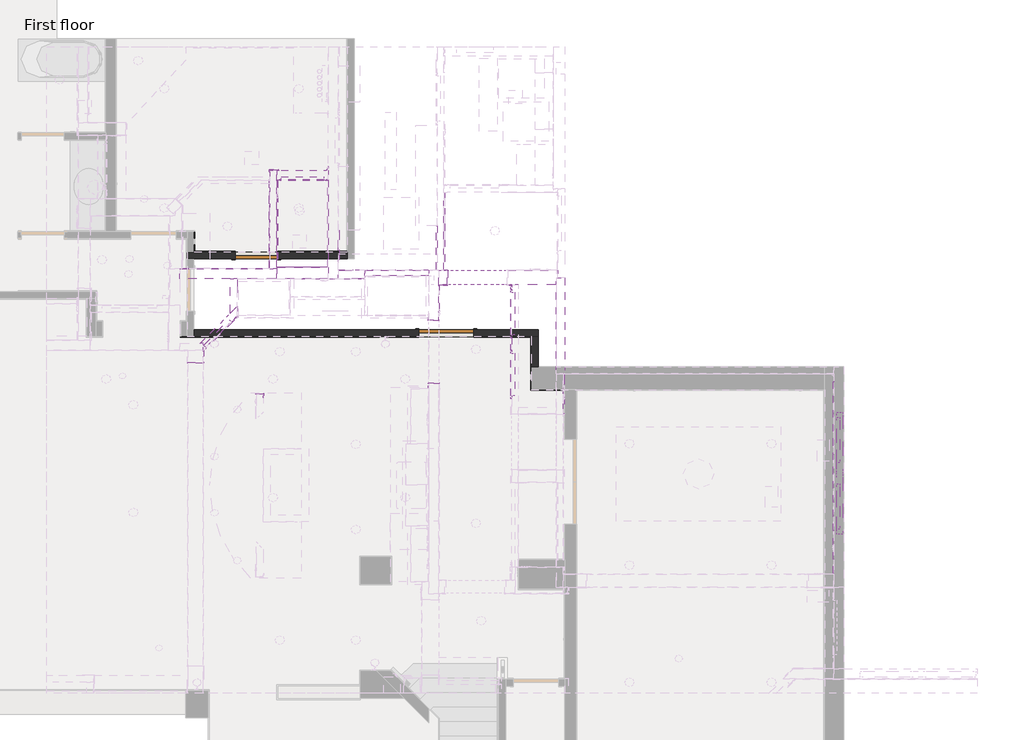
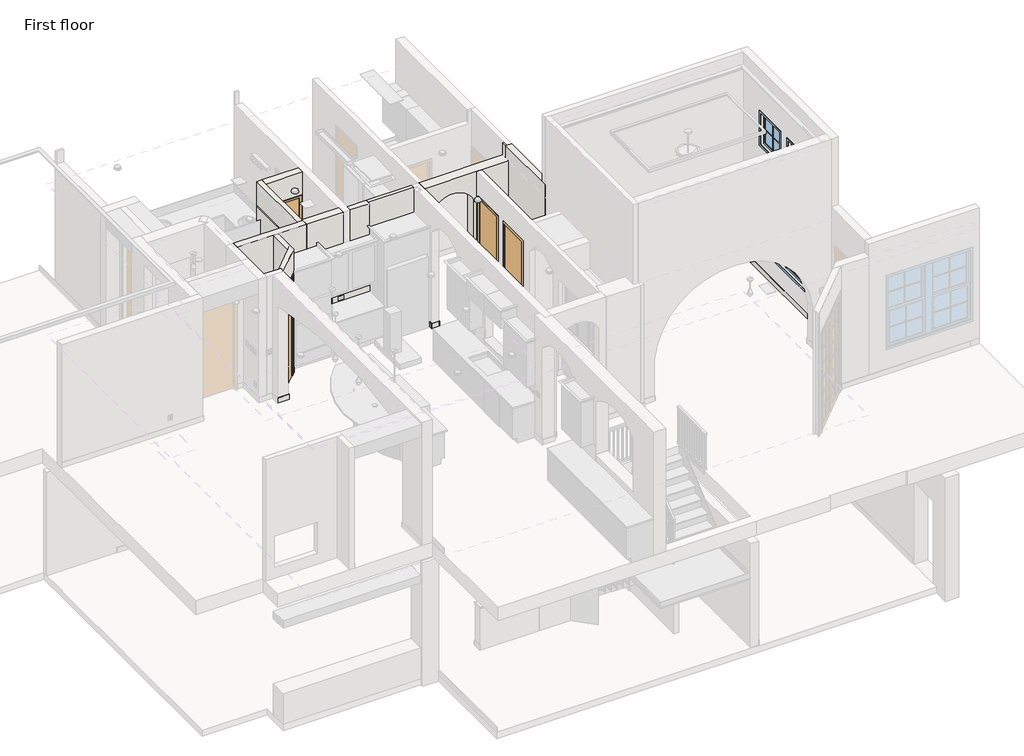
# One storey, part 7 of 14: 56 walls, 6 doors, 3 windows.
"""IFC4 building model written with IfcOpenShell, lengths in millimetres."""

from ifc_helpers import new_model, si_unit, frame, origin, origin_with_axes, place, context, project, spatial, polyline, circle_curve, outline, extrude, faceted_brep, transform, mapped, element, save
from ifc_brep_helpers import plane_surface, revolved_surface, advanced_brep
from components import door_7e4155b5, door_c2b4dc18, door_0b5118a4, door_85cdc329, door_72c844fb, window_a5bdc124, window_352ad0ef

model = new_model("IFC4")

# Units and contexts
model_context = context("Model", 3, world=origin())
ifc_project = project(units=[si_unit("LENGTHUNIT", "METRE", prefix="MILLI")], contexts=[model_context])

# Site, building, storey
site = spatial("IfcSite", under=ifc_project)
building = spatial("IfcBuilding", under=site)
storey = spatial("IfcBuildingStorey", under=building, Name="First floor", Elevation=0.0)

# Doors
placement = place(None, origin())
door_shape = door_7e4155b5(model_context)
element("IfcDoor", 1, ObjectType="Door_1 : 2'-0\" X 8'-0\"", at=placement, inside=storey, context=model_context, shape_type="MappedRepresentation", body=[
    mapped(door_shape, transform((385.1436821, 9152.7659872, 3251.2), x_axis=(-0.7071067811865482, -0.7071067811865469, 0.0), y_axis=(0.7071067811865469, -0.7071067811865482, 0.0), z_axis=(0.0, 0.0, 1.0))),
])
door_2_shape = door_c2b4dc18(model_context)
element("IfcDoor", 2, ObjectType="Door_1 : 2'-4\" X 8'-0\"", at=placement, inside=storey, context=model_context, shape_type="MappedRepresentation", body=[
    mapped(door_2_shape, transform((5378.45, 9461.3947939, 3251.2), x_axis=(0.0, -1.0, 0.0), y_axis=(1.0, 0.0, 0.0), z_axis=(0.0, 0.0, 1.0))),
])
element("IfcDoor", 3, ObjectType="Door_1 : 2'-4\" X 8'-0\"", at=placement, inside=storey, context=model_context, shape_type="MappedRepresentation", body=[
    mapped(door_2_shape, transform((5378.45, 8445.3947939, 3251.2), x_axis=(0.0, -1.0, 0.0), y_axis=(1.0, 0.0, 0.0), z_axis=(0.0, 0.0, 1.0))),
])
door_3_shape = door_0b5118a4(model_context)
element("IfcDoor", 4, ObjectType="Door_1 : 2'-4\" X 8'-0\"", at=placement, inside=storey, context=model_context, shape_type="MappedRepresentation", body=[
    mapped(door_3_shape, transform((1828.8, 11779.1447939, 3251.2), x_axis=(1.0, 0.0, 0.0), y_axis=(0.0, 1.0, 0.0), z_axis=(0.0, 0.0, 1.0))),
])
door_4_shape = door_85cdc329(model_context)
element("IfcDoor", 5, ObjectType="Door_1 : 2'-4\" X 8'-2\"", at=placement, inside=storey, context=model_context, shape_type="MappedRepresentation", body=[
    mapped(door_4_shape, transform((1054.1, 10433.05, 0.0), x_axis=(-1.0, 0.0, 0.0), y_axis=(0.0, -1.0, 0.0), z_axis=(0.0, 0.0, 1.0))),
])
door_5_shape = door_72c844fb(model_context)
element("IfcDoor", 6, ObjectType="Door_1 : 3'-0\" X 8'-0\"", at=placement, inside=storey, context=model_context, shape_type="MappedRepresentation", body=[
    mapped(door_5_shape, transform((4229.1, 9137.65, 0.0), x_axis=(1.0, 0.0, 0.0), y_axis=(0.0, 1.0, 0.0), z_axis=(0.0, 0.0, 1.0))),
])

# Walls
element("IfcWall", 7, ObjectType="Wall Border_T1", at=placement, inside=storey, context=model_context, shape_type="Brep", body=[
    faceted_brep([(-215.9, 9067.8, 0.0), (3721.1, 9067.8, 0.0), (3721.1, 9067.8, 127.0), (-215.9, 9067.8, 127.0), (-215.9, 9080.5, 0.0), (-215.9, 9080.5, 127.0), (-203.2, 9080.5, 127.0), (3721.1, 9080.5, 127.0), (3721.1, 9080.5, 0.0), (-203.2, 9080.5, 0.0)], [[[0, 1, 2, 3]], [[4, 5, 6, 7, 8, 9]], [[1, 0, 4, 9, 8]], [[2, 1, 8, 7]], [[3, 2, 7, 6, 5]], [[0, 3, 5, 4]]]),
])
element("IfcWall", 8, ObjectType="Wall Border_T1", at=placement, inside=storey, context=model_context, shape_type="SweptSolid", body=[
    extrude(outline(polyline([(5638.8, 9067.8), (4737.1, 9067.8), (4737.1, 9080.5), (5638.8, 9080.5), (5638.8, 9067.8)])), origin_with_axes(), (0.0, 0.0, 1.0), 127.0),
])
element("IfcWall", 9, ObjectType="Wall Border_T1", at=placement, inside=storey, context=model_context, shape_type="Brep", body=[
    faceted_brep([(5638.8, 9080.5, 0.0), (5638.8, 9067.8, 0.0), (5638.8, 8191.5, 0.0), (5638.8, 8191.5, 127.0), (5638.8, 9067.8, 127.0), (5638.8, 9080.5, 127.0), (5651.5, 9080.5, 0.0), (5651.5, 9080.5, 127.0), (5651.5, 8191.5, 127.0), (5651.5, 8191.5, 0.0)], [[[0, 1, 2, 3, 4, 5]], [[6, 7, 8, 9]], [[2, 1, 0, 6, 9]], [[3, 2, 9, 8]], [[5, 4, 3, 8, 7]], [[0, 5, 7, 6]]]),
])
element("IfcWall", 10, ObjectType="Wall Border_T1", at=placement, inside=storey, context=model_context, shape_type="Brep", body=[
    faceted_brep([(5638.8, 8178.8, 0.0), (6197.6, 8178.8, 0.0), (6197.6, 8178.8, 127.0), (5638.8, 8178.8, 127.0), (5638.8, 8191.5, 0.0), (5638.8, 8191.5, 127.0), (5651.5, 8191.5, 127.0), (6197.6, 8191.5, 127.0), (6197.6, 8191.5, 0.0), (5651.5, 8191.5, 0.0)], [[[0, 1, 2, 3]], [[4, 5, 6, 7, 8, 9]], [[1, 0, 4, 9, 8]], [[2, 1, 8, 7]], [[3, 2, 7, 6, 5]], [[0, 3, 5, 4]]]),
])
element("IfcWall", 11, ObjectType="Wall Border_T1", at=placement, inside=storey, context=model_context, shape_type="Brep", body=[
    faceted_brep([(1460.5, 10490.2, 0.0), (2578.1, 10490.2, 0.0), (2578.1, 10490.2, 127.0), (1460.5, 10490.2, 127.0), (1460.5, 10502.9, 0.0), (1460.5, 10502.9, 127.0), (2565.4, 10502.9, 127.0), (2578.1, 10502.9, 127.0), (2578.1, 10502.9, 0.0), (2565.4, 10502.9, 0.0)], [[[0, 1, 2, 3]], [[4, 5, 6, 7, 8, 9]], [[1, 0, 4, 9, 8]], [[2, 1, 8, 7]], [[3, 2, 7, 6, 5]], [[0, 3, 5, 4]]]),
])
element("IfcWall", 12, ObjectType="Wall Border_T1", at=placement, inside=storey, context=model_context, shape_type="SweptSolid", body=[
    extrude(outline(polyline([(647.7, 10502.9), (647.7, 10490.2), (25.4, 10490.2), (25.4, 10502.9), (647.7, 10502.9)])), origin_with_axes(), (0.0, 0.0, 1.0), 127.0),
])
element("IfcWall", 13, ObjectType="Wall Border_T1", at=placement, inside=storey, context=model_context, shape_type="Brep", body=[
    faceted_brep([(25.4, 10490.2, 0.0), (25.4, 10502.9, 0.0), (25.4, 10833.1, 0.0), (25.4, 10833.1, 127.0), (25.4, 10502.9, 127.0), (25.4, 10490.2, 127.0), (12.7, 10490.2, 0.0), (12.7, 10490.2, 127.0), (12.7, 10833.1, 127.0), (12.7, 10833.1, 0.0)], [[[0, 1, 2, 3, 4, 5]], [[6, 7, 8, 9]], [[2, 1, 0, 6, 9]], [[3, 2, 9, 8]], [[5, 4, 3, 8, 7]], [[0, 5, 7, 6]]]),
])
element("IfcWall", 14, ObjectType="Wall Border_T1", at=placement, inside=storey, context=model_context, shape_type="Brep", body=[
    faceted_brep([(5257.8, 9931.2947939, 3251.2), (5308.6, 9931.2947939, 3251.2), (5321.3, 9931.2947939, 3251.2), (5321.3, 9931.2947939, 3378.2), (5308.6, 9931.2947939, 3378.2), (5257.8, 9931.2947939, 3378.2), (5257.8, 9943.9947939, 3251.2), (5257.8, 9943.9947939, 3378.2), (5321.3, 9943.9947939, 3378.2), (5321.3, 9943.9947939, 3251.2)], [[[0, 1, 2, 3, 4, 5]], [[6, 7, 8, 9]], [[2, 1, 0, 6, 9]], [[5, 4, 3, 8, 7]], [[0, 5, 7, 6]], [[3, 2, 9, 8]]]),
])
element("IfcWall", 15, ObjectType="Wall Border_T1", at=placement, inside=storey, context=model_context, shape_type="SweptSolid", body=[
    extrude(outline(polyline([(5308.6, 9867.7947939), (5308.6, 9931.2947939), (5321.3, 9931.2947939), (5321.3, 9867.7947939), (5308.6, 9867.7947939)])), frame((0.0, 0.0, 3251.2), z_axis=(0.0, 0.0, 1.0), x_axis=(1.0, 0.0, 0.0)), (0.0, 0.0, 1.0), 127.0),
])
element("IfcWall", 16, ObjectType="Wall Border_T1", at=placement, inside=storey, context=model_context, shape_type="SweptSolid", body=[
    extrude(outline(polyline([(5308.6, 8851.7947939), (5308.6, 9054.9947939), (5321.3, 9054.9947939), (5321.3, 8851.7947939), (5308.6, 8851.7947939)])), frame((0.0, 0.0, 3251.2), z_axis=(0.0, 0.0, 1.0), x_axis=(1.0, 0.0, 0.0)), (0.0, 0.0, 1.0), 127.0),
])
element("IfcWall", 17, ObjectType="Wall Border_T1", at=placement, inside=storey, context=model_context, shape_type="Brep", body=[
    faceted_brep([(4191.0, 11480.6947939, 3251.2), (4191.0, 10185.2947939, 3251.2), (4191.0, 10185.2947939, 3378.2), (4191.0, 11480.6947939, 3378.2), (4203.7, 11480.6947939, 3251.2), (4203.7, 11480.6947939, 3378.2), (4203.7, 10197.9947939, 3378.2), (4203.7, 10185.2947939, 3378.2), (4203.7, 10185.2947939, 3251.2), (4203.7, 10197.9947939, 3251.2)], [[[0, 1, 2, 3]], [[4, 5, 6, 7, 8, 9]], [[1, 0, 4, 9, 8]], [[3, 2, 7, 6, 5]], [[0, 3, 5, 4]], [[2, 1, 8, 7]]]),
])
element("IfcWall", 18, ObjectType="Wall Border_T1", at=placement, inside=storey, context=model_context, shape_type="Brep", body=[
    faceted_brep([(4203.7, 10185.2947939, 3251.2), (4241.8, 10185.2947939, 3251.2), (4254.5, 10185.2947939, 3251.2), (4254.5, 10185.2947939, 3378.2), (4241.8, 10185.2947939, 3378.2), (4203.7, 10185.2947939, 3378.2), (4203.7, 10197.9947939, 3251.2), (4203.7, 10197.9947939, 3378.2), (4254.5, 10197.9947939, 3378.2), (4254.5, 10197.9947939, 3251.2)], [[[0, 1, 2, 3, 4, 5]], [[6, 7, 8, 9]], [[2, 1, 0, 6, 9]], [[5, 4, 3, 8, 7]], [[0, 5, 7, 6]], [[3, 2, 9, 8]]]),
])
element("IfcWall", 19, ObjectType="Wall Border_T1", at=placement, inside=storey, context=model_context, shape_type="Brep", body=[
    faceted_brep([(4241.8, 10185.2947939, 3251.2), (4241.8, 9943.9947939, 3251.2), (4241.8, 9931.2947939, 3251.2), (4241.8, 9931.2947939, 3378.2), (4241.8, 9943.9947939, 3378.2), (4241.8, 10185.2947939, 3378.2), (4254.5, 10185.2947939, 3251.2), (4254.5, 10185.2947939, 3378.2), (4254.5, 9931.2947939, 3378.2), (4254.5, 9931.2947939, 3251.2)], [[[0, 1, 2, 3, 4, 5]], [[6, 7, 8, 9]], [[2, 1, 0, 6, 9]], [[5, 4, 3, 8, 7]], [[0, 5, 7, 6]], [[3, 2, 9, 8]]]),
])
element("IfcWall", 20, ObjectType="Wall Border_T1", at=placement, inside=storey, context=model_context, shape_type="Brep", body=[
    faceted_brep([(4241.8, 9943.9947939, 3251.2), (4102.1, 9943.9947939, 3251.2), (4102.1, 9943.9947939, 3378.2), (4241.8, 9943.9947939, 3378.2), (4241.8, 9931.2947939, 3251.2), (4241.8, 9931.2947939, 3378.2), (4114.8, 9931.2947939, 3378.2), (4102.1, 9931.2947939, 3378.2), (4102.1, 9931.2947939, 3251.2), (4114.8, 9931.2947939, 3251.2)], [[[0, 1, 2, 3]], [[4, 5, 6, 7, 8, 9]], [[1, 0, 4, 9, 8]], [[3, 2, 7, 6, 5]], [[0, 3, 5, 4]], [[2, 1, 8, 7]]]),
])
element("IfcWall", 21, ObjectType="Wall Border_T1", at=placement, inside=storey, context=model_context, shape_type="Brep", body=[
    faceted_brep([(4102.1, 9931.2947939, 3251.2), (4102.1, 9359.7947939, 3251.2), (4102.1, 9347.0947939, 3251.2), (4102.1, 9347.0947939, 3378.2), (4102.1, 9359.7947939, 3378.2), (4102.1, 9931.2947939, 3378.2), (4114.8, 9931.2947939, 3251.2), (4114.8, 9931.2947939, 3378.2), (4114.8, 9347.0947939, 3378.2), (4114.8, 9347.0947939, 3251.2)], [[[0, 1, 2, 3, 4, 5]], [[6, 7, 8, 9]], [[2, 1, 0, 6, 9]], [[5, 4, 3, 8, 7]], [[0, 5, 7, 6]], [[3, 2, 9, 8]]]),
])
element("IfcWall", 22, ObjectType="Wall Border_T1", at=placement, inside=storey, context=model_context, shape_type="Brep", body=[
    faceted_brep([(3924.3, 8292.9947939, 3251.2), (3937.0, 8292.9947939, 3251.2), (4102.1, 8292.9947939, 3251.2), (4114.8, 8292.9947939, 3251.2), (4114.8, 8292.9947939, 3378.2), (4102.1, 8292.9947939, 3378.2), (3937.0, 8292.9947939, 3378.2), (3924.3, 8292.9947939, 3378.2), (3924.3, 8305.6947939, 3251.2), (3924.3, 8305.6947939, 3378.2), (4114.8, 8305.6947939, 3378.2), (4114.8, 8305.6947939, 3251.2)], [[[0, 1, 2, 3, 4, 5, 6, 7]], [[8, 9, 10, 11]], [[3, 2, 1, 0, 8, 11]], [[7, 6, 5, 4, 10, 9]], [[4, 3, 11, 10]], [[0, 7, 9, 8]]]),
])
element("IfcWall", 23, ObjectType="Wall Border_T1", at=placement, inside=storey, context=model_context, shape_type="Brep", body=[
    faceted_brep([(2247.9, 11925.1947939, 3251.2), (2247.9, 11874.3947939, 3251.2), (2247.9, 11861.6947939, 3251.2), (2247.9, 11861.6947939, 3378.2), (2247.9, 11874.3947939, 3378.2), (2247.9, 11925.1947939, 3378.2), (2260.6, 11925.1947939, 3251.2), (2260.6, 11925.1947939, 3378.2), (2260.6, 11861.6947939, 3378.2), (2260.6, 11861.6947939, 3251.2)], [[[0, 1, 2, 3, 4, 5]], [[6, 7, 8, 9]], [[2, 1, 0, 6, 9]], [[5, 4, 3, 8, 7]], [[0, 5, 7, 6]], [[3, 2, 9, 8]]]),
])
element("IfcWall", 24, ObjectType="Wall Border_T1", at=placement, inside=storey, context=model_context, shape_type="Brep", body=[
    faceted_brep([(1270.0, 11836.4, 3251.2), (1270.0, 10223.5, 3251.2), (1270.0, 10210.8, 3251.2), (1270.0, 10210.8, 5715.0), (1270.0, 10223.5, 5715.0), (1270.0, 11836.4, 5715.0), (1270.0, 11836.4, 3378.2), (1282.7, 11836.4, 3251.2), (1282.7, 11836.4, 3378.2), (1282.7, 11836.4, 5715.0), (1282.7, 10210.8, 5715.0), (1282.7, 10210.8, 3251.2)], [[[0, 1, 2, 3, 4, 5, 6]], [[7, 8, 9, 10, 11]], [[2, 1, 0, 7, 11]], [[5, 4, 3, 10, 9]], [[0, 6, 5, 9, 8, 7]], [[3, 2, 11, 10]]]),
])
element("IfcWall", 25, ObjectType="Wall Border_T1", at=placement, inside=storey, context=model_context, shape_type="Brep", body=[
    faceted_brep([(1270.0, 10223.5, 3251.2), (-177.8, 10223.5, 3251.2), (-190.5, 10223.5, 3251.2), (-190.5, 10223.5, 5715.0), (-177.8, 10223.5, 5715.0), (1270.0, 10223.5, 5715.0), (1270.0, 10210.8, 3251.2), (1270.0, 10210.8, 5715.0), (-190.5, 10210.8, 5715.0), (-190.5, 10210.8, 3251.2)], [[[0, 1, 2, 3, 4, 5]], [[6, 7, 8, 9]], [[2, 1, 0, 6, 9]], [[5, 4, 3, 8, 7]], [[0, 5, 7, 6]], [[3, 2, 9, 8]]]),
])
element("IfcWall", 26, ObjectType="Wall Border_T1", at=placement, inside=storey, context=model_context, shape_type="SweptSolid", body=[
    extrude(outline(polyline([(2247.9, 11861.6947939), (2235.2, 11861.6947939), (2235.2, 11874.3947939), (2247.9, 11874.3947939), (2247.9, 11861.6947939)])), frame((0.0, 0.0, 3251.2), z_axis=(0.0, 0.0, 1.0), x_axis=(1.0, 0.0, 0.0)), (0.0, 0.0, 1.0), 127.0),
])
element("IfcWall", 27, ObjectType="Wall Border_T1", at=placement, inside=storey, context=model_context, shape_type="Brep", body=[
    faceted_brep([(1422.4, 11874.3947939, 3251.2), (1270.0, 11874.3947939, 3251.2), (1270.0, 11874.3947939, 3378.2), (1422.4, 11874.3947939, 3378.2), (1422.4, 11861.6947939, 3251.2), (1422.4, 11861.6947939, 3378.2), (1282.7, 11861.6947939, 3378.2), (1270.0, 11861.6947939, 3378.2), (1270.0, 11861.6947939, 3251.2), (1282.7, 11861.6947939, 3251.2)], [[[0, 1, 2, 3]], [[4, 5, 6, 7, 8, 9]], [[1, 0, 4, 9, 8]], [[3, 2, 7, 6, 5]], [[0, 3, 5, 4]], [[2, 1, 8, 7]]]),
])
element("IfcWall", 28, ObjectType="Wall Border_T1", at=placement, inside=storey, context=model_context, shape_type="SweptSolid", body=[
    extrude(outline(polyline([(1270.0, 11836.4), (1270.0, 11861.6947939), (1282.7, 11861.6947939), (1282.7, 11836.4), (1270.0, 11836.4)])), frame((0.0, 0.0, 3251.2), z_axis=(0.0, 0.0, 1.0), x_axis=(1.0, 0.0, 0.0)), (0.0, 0.0, 1.0), 127.0),
])
element("IfcWall", 29, ObjectType="Wall Border_T1", at=placement, inside=storey, context=model_context, shape_type="Brep", body=[
    faceted_brep([(1422.4, 11696.5947939, 3251.2), (1397.0, 11696.5947939, 3251.2), (1397.0, 11696.5947939, 3378.2), (1422.4, 11696.5947939, 3378.2), (1422.4, 11683.8947939, 3251.2), (1422.4, 11683.8947939, 3378.2), (1409.7, 11683.8947939, 3378.2), (1397.0, 11683.8947939, 3378.2), (1397.0, 11683.8947939, 3251.2), (1409.7, 11683.8947939, 3251.2)], [[[0, 1, 2, 3]], [[4, 5, 6, 7, 8, 9]], [[1, 0, 4, 9, 8]], [[3, 2, 7, 6, 5]], [[0, 3, 5, 4]], [[2, 1, 8, 7]]]),
])
element("IfcWall", 30, ObjectType="Wall Border_T1", at=placement, inside=storey, context=model_context, shape_type="Brep", body=[
    faceted_brep([(1397.0, 11683.8947939, 3251.2), (1397.0, 10236.2, 3251.2), (1397.0, 10236.2, 3378.2), (1397.0, 11683.8947939, 3378.2), (1409.7, 11683.8947939, 3251.2), (1409.7, 11683.8947939, 3378.2), (1409.7, 10248.9, 3378.2), (1409.7, 10236.2, 3378.2), (1409.7, 10236.2, 3251.2), (1409.7, 10248.9, 3251.2)], [[[0, 1, 2, 3]], [[4, 5, 6, 7, 8, 9]], [[1, 0, 4, 9, 8]], [[3, 2, 7, 6, 5]], [[0, 3, 5, 4]], [[2, 1, 8, 7]]]),
])
element("IfcWall", 31, ObjectType="Wall Border_T1", at=placement, inside=storey, context=model_context, shape_type="Brep", body=[
    faceted_brep([(1409.7, 10236.2, 3251.2), (2260.6, 10236.2, 3251.2), (2260.6, 10236.2, 3378.2), (1409.7, 10236.2, 3378.2), (1409.7, 10248.9, 3251.2), (1409.7, 10248.9, 3378.2), (2247.9, 10248.9, 3378.2), (2260.6, 10248.9, 3378.2), (2260.6, 10248.9, 3251.2), (2247.9, 10248.9, 3251.2)], [[[0, 1, 2, 3]], [[4, 5, 6, 7, 8, 9]], [[1, 0, 4, 9, 8]], [[3, 2, 7, 6, 5]], [[0, 3, 5, 4]], [[2, 1, 8, 7]]]),
])
element("IfcWall", 32, ObjectType="Wall Border_T1", at=placement, inside=storey, context=model_context, shape_type="Brep", body=[
    faceted_brep([(2260.6, 10248.9, 3251.2), (2260.6, 11696.5947939, 3251.2), (2260.6, 11696.5947939, 3378.2), (2260.6, 10248.9, 3378.2), (2247.9, 10248.9, 3251.2), (2247.9, 10248.9, 3378.2), (2247.9, 11683.8947939, 3378.2), (2247.9, 11696.5947939, 3378.2), (2247.9, 11696.5947939, 3251.2), (2247.9, 11683.8947939, 3251.2)], [[[0, 1, 2, 3]], [[4, 5, 6, 7, 8, 9]], [[1, 0, 4, 9, 8]], [[3, 2, 7, 6, 5]], [[0, 3, 5, 4]], [[2, 1, 8, 7]]]),
])
element("IfcWall", 33, ObjectType="Wall Border_T1", at=placement, inside=storey, context=model_context, shape_type="SweptSolid", body=[
    extrude(outline(polyline([(2235.2, 11696.5947939), (2247.9, 11696.5947939), (2247.9, 11683.8947939), (2235.2, 11683.8947939), (2235.2, 11696.5947939)])), frame((0.0, 0.0, 3251.2), z_axis=(0.0, 0.0, 1.0), x_axis=(1.0, 0.0, 0.0)), (0.0, 0.0, 1.0), 127.0),
])
element("IfcWall", 34, ObjectType="Wall Border_T1", at=placement, inside=storey, context=model_context, shape_type="Brep", body=[
    faceted_brep([(2425.7, 10858.3947939, 3251.2), (2425.7, 10185.4, 3251.2), (2425.7, 10185.4, 3378.2), (2425.7, 10858.3947939, 3378.2), (2438.4, 10858.3947939, 3251.2), (2438.4, 10858.3947939, 3378.2), (2438.4, 10198.1, 3378.2), (2438.4, 10185.4, 3378.2), (2438.4, 10185.4, 3251.2), (2438.4, 10198.1, 3251.2)], [[[0, 1, 2, 3]], [[4, 5, 6, 7, 8, 9]], [[1, 0, 4, 9, 8]], [[3, 2, 7, 6, 5]], [[0, 3, 5, 4]], [[2, 1, 8, 7]]]),
])
element("IfcWall", 35, ObjectType="Wall Border_T1", at=placement, inside=storey, context=model_context, shape_type="Brep", body=[
    faceted_brep([(2438.4, 10185.4, 3251.2), (4076.7, 10185.4, 3251.2), (4076.7, 10185.4, 3378.2), (2438.4, 10185.4, 3378.2), (2438.4, 10198.1, 3251.2), (2438.4, 10198.1, 3378.2), (4064.0, 10198.1, 3378.2), (4076.7, 10198.1, 3378.2), (4076.7, 10198.1, 3251.2), (4064.0, 10198.1, 3251.2)], [[[0, 1, 2, 3]], [[4, 5, 6, 7, 8, 9]], [[1, 0, 4, 9, 8]], [[3, 2, 7, 6, 5]], [[0, 3, 5, 4]], [[2, 1, 8, 7]]]),
])
element("IfcWall", 36, ObjectType="Wall Border_T1", at=placement, inside=storey, context=model_context, shape_type="SweptSolid", body=[
    extrude(outline(polyline([(4076.7, 10934.5947939), (4076.7, 10198.1), (4064.0, 10198.1), (4064.0, 10934.5947939), (4076.7, 10934.5947939)])), frame((0.0, 0.0, 3251.2), z_axis=(0.0, 0.0, 1.0), x_axis=(1.0, 0.0, 0.0)), (0.0, 0.0, 1.0), 127.0),
])
element("IfcWall", 37, ObjectType="Wall Border_T1", at=placement, inside=storey, context=model_context, shape_type="Brep", body=[
    faceted_brep([(4102.1, 9359.7947939, 3251.2), (3937.0, 9359.7947939, 3251.2), (3924.3, 9359.7947939, 3251.2), (3924.3, 9359.7947939, 3378.2), (3937.0, 9359.7947939, 3378.2), (4102.1, 9359.7947939, 3378.2), (4102.1, 9347.0947939, 3251.2), (4102.1, 9347.0947939, 3378.2), (3924.3, 9347.0947939, 3378.2), (3924.3, 9347.0947939, 3251.2)], [[[0, 1, 2, 3, 4, 5]], [[6, 7, 8, 9]], [[2, 1, 0, 6, 9]], [[5, 4, 3, 8, 7]], [[3, 2, 9, 8]], [[0, 5, 7, 6]]]),
])
element("IfcWall", 38, ObjectType="Wall Border_T1", at=placement, inside=storey, context=model_context, shape_type="SweptSolid", body=[
    extrude(outline(polyline([(3937.0, 9436.1), (3937.0, 9359.7947939), (3924.3, 9359.7947939), (3924.3, 9436.1), (3937.0, 9436.1)])), frame((0.0, 0.0, 3251.2), z_axis=(0.0, 0.0, 1.0), x_axis=(1.0, 0.0, 0.0)), (0.0, 0.0, 1.0), 127.0),
])
element("IfcWall", 39, ObjectType="Wall Border_T1", at=placement, inside=storey, context=model_context, shape_type="Brep", body=[
    faceted_brep([(6197.5999991, 7784.9947939, 3251.2), (6197.5999991, 8445.5, 3251.2), (6197.5999991, 8458.2, 3251.2), (6197.5999991, 8458.2, 3378.2), (6197.5999991, 8445.5, 3378.2), (6197.5999991, 7784.9947939, 3378.2), (6184.8999991, 7784.9947939, 3251.2), (6184.8999991, 7784.9947939, 3378.2), (6184.8999991, 8458.2, 3378.2), (6184.8999991, 8458.2, 3251.2)], [[[0, 1, 2, 3, 4, 5]], [[6, 7, 8, 9]], [[2, 1, 0, 6, 9]], [[5, 4, 3, 8, 7]], [[3, 2, 9, 8]], [[0, 5, 7, 6]]]),
])
element("IfcWall", 40, ObjectType="Wall Border_T1", at=placement, inside=storey, context=model_context, shape_type="SweptSolid", body=[
    extrude(outline(polyline([(10693.4, 5118.1001027), (10693.4, 8445.5), (10706.1, 8445.5), (10706.1, 5118.1001027), (10693.4, 5118.1001027)])), frame((0.0, 0.0, 3251.2), z_axis=(0.0, 0.0, 1.0), x_axis=(1.0, 0.0, 0.0)), (0.0, 0.0, 1.0), 127.0),
])
element("IfcWall", 41, ObjectType="Wall Border_T1", at=placement, inside=storey, context=model_context, shape_type="Brep", body=[
    faceted_brep([(-88.9, 8636.0, 3251.2), (177.8, 8636.0, 3251.2), (177.8, 8636.0, 3378.2), (-88.9, 8636.0, 3378.2), (-88.9, 8648.7, 3251.2), (-88.9, 8648.7, 3378.2), (165.1, 8648.7, 3378.2), (177.8, 8648.7, 3378.2), (177.8, 8648.7, 3251.2), (165.1, 8648.7, 3251.2)], [[[0, 1, 2, 3]], [[4, 5, 6, 7, 8, 9]], [[1, 0, 4, 9, 8]], [[3, 2, 7, 6, 5]], [[0, 3, 5, 4]], [[2, 1, 8, 7]]]),
])
element("IfcWall", 42, ObjectType="Wall Border_T1", at=placement, inside=storey, context=model_context, shape_type="SweptSolid", body=[
    extrude(outline(polyline([(177.8, 8846.6394878), (177.8, 8648.7), (165.1, 8648.7), (165.1, 8833.9394878), (177.8, 8846.6394878)])), frame((0.0, 0.0, 3251.2), z_axis=(0.0, 0.0, 1.0), x_axis=(1.0, 0.0, 0.0)), (0.0, 0.0, 1.0), 127.0),
])
element("IfcWall", 43, ObjectType="Wall Border_T1", at=placement, inside=storey, context=model_context, shape_type="Brep", body=[
    faceted_brep([(165.1, 8833.9394878, 3251.2), (177.8, 8846.6394878, 3251.2), (183.0879194, 8851.9274072, 3251.2), (183.0879194, 8851.9274072, 3378.2), (177.8, 8846.6394878, 3378.2), (165.1, 8833.9394878, 3378.2), (165.1, 8851.9, 3251.2), (165.1, 8851.9, 3378.2), (174.1076633, 8860.9076633, 3378.2), (174.1076633, 8860.9076633, 3251.2)], [[[0, 1, 2, 3, 4, 5]], [[6, 7, 8, 9]], [[2, 1, 0, 6, 9]], [[3, 2, 9, 8]], [[5, 4, 3, 8, 7]], [[0, 5, 7, 6]]]),
])
element("IfcWall", 44, ObjectType="Wall Border_T1", at=placement, inside=storey, context=model_context, shape_type="Brep", body=[
    faceted_brep([(685.9822622, 9354.8217499, 3251.2), (749.1972395, 9418.0367272, 3251.2), (749.1972395, 9418.0367272, 3378.2), (685.9822622, 9354.8217499, 3378.2), (677.0020061, 9363.8020061, 3251.2), (677.0020061, 9363.8020061, 3378.2), (736.4972395, 9423.2972395, 3378.2), (749.1972395, 9435.9972395, 3378.2), (749.1972395, 9435.9972395, 3251.2), (736.4972395, 9423.2972395, 3251.2)], [[[0, 1, 2, 3]], [[4, 5, 6, 7, 8, 9]], [[1, 0, 4, 9, 8]], [[3, 2, 7, 6, 5]], [[0, 3, 5, 4]], [[2, 1, 8, 7]]]),
])
element("IfcWall", 45, ObjectType="Wall Border_T1", at=placement, inside=storey, context=model_context, shape_type="SweptSolid", body=[
    extrude(outline(polyline([(736.4972395, 9423.2972395), (736.4972395, 9518.65), (749.1972395, 9518.65), (749.1972395, 9435.9972395), (736.4972395, 9423.2972395)])), frame((0.0, 0.0, 3251.2), z_axis=(0.0, 0.0, 1.0), x_axis=(1.0, 0.0, 0.0)), (0.0, 0.0, 1.0), 127.0),
])
element("IfcWall", 46, ObjectType="Wall Border_T1", at=placement, inside=storey, context=model_context, shape_type="SweptSolid", body=[
    extrude(outline(polyline([(2870.2, 10033.0), (1625.4972395, 10033.0), (1625.4972395, 10045.7), (2870.2, 10045.7), (2870.2, 10033.0)])), frame((0.0, 0.0, 4140.2), z_axis=(0.0, 0.0, 1.0), x_axis=(1.0, 0.0, 0.0)), (0.0, 0.0, 1.0), 381.0),
])
element("IfcWall", 47, ObjectType="Wall Border_T1", at=placement, inside=storey, context=model_context, shape_type="Brep", body=[
    faceted_brep([(1181.1, 8058.15, 3251.2), (1181.1, 8128.0, 3251.2), (1181.1, 8128.0, 3378.2), (1181.1, 8058.15, 3378.2), (1168.4, 8058.15, 3251.2), (1168.4, 8058.15, 3378.2), (1168.4, 8115.3, 3378.2), (1168.4, 8128.0, 3378.2), (1168.4, 8128.0, 3251.2), (1168.4, 8115.3, 3251.2)], [[[0, 1, 2, 3]], [[4, 5, 6, 7, 8, 9]], [[1, 0, 4, 9, 8]], [[3, 2, 7, 6, 5]], [[0, 3, 5, 4]], [[2, 1, 8, 7]]]),
])
element("IfcWall", 48, ObjectType="Wall Border_T1", at=placement, inside=storey, context=model_context, shape_type="Brep", body=[
    faceted_brep([(1168.4, 8128.0, 3251.2), (1041.4, 8128.0, 3251.2), (1041.4, 8128.0, 3378.2), (1168.4, 8128.0, 3378.2), (1168.4, 8115.3, 3251.2), (1168.4, 8115.3, 3378.2), (1054.1, 8115.3, 3378.2), (1041.4, 8115.3, 3378.2), (1041.4, 8115.3, 3251.2), (1054.1, 8115.3, 3251.2)], [[[0, 1, 2, 3]], [[4, 5, 6, 7, 8, 9]], [[1, 0, 4, 9, 8]], [[3, 2, 7, 6, 5]], [[0, 3, 5, 4]], [[2, 1, 8, 7]]]),
])
element("IfcWall", 49, ObjectType="Wall Border_T1", at=placement, inside=storey, context=model_context, shape_type="SweptSolid", body=[
    extrude(outline(polyline([(3924.3, 8223.1447939), (3924.3, 8292.9947939), (3937.0, 8292.9947939), (3937.0, 8223.1447939), (3924.3, 8223.1447939)])), frame((0.0, 0.0, 3251.2), z_axis=(0.0, 0.0, 1.0), x_axis=(1.0, 0.0, 0.0)), (0.0, 0.0, 1.0), 127.0),
])
element("IfcWall", 50, ObjectType="Wall_3.5\"", at=placement, inside=storey, context=model_context, shape_type="SweptSolid", body=[
    extrude(outline(polyline([(3937.0, 10096.5), (2870.2, 10096.5), (2870.2, 10185.4), (3937.0, 10185.4), (3937.0, 10096.5)])), frame((0.0, 0.0, 3251.2), z_axis=(0.0, 0.0, 1.0), x_axis=(1.0, 0.0, 0.0)), (0.0, 0.0, 1.0), 3048.0),
])
element("IfcWall", 51, ObjectType="Wall_4.5\"", at=placement, inside=storey, context=model_context, shape_type="Brep", body=[
    faceted_brep([(736.4972395, 9423.2972395, 6299.2), (165.1, 8851.9, 6299.2), (165.1, 8851.9, 3251.2), (210.0286878, 8896.8286878, 3251.2), (210.0286878, 8896.8286878, 5689.6), (641.0809816, 9327.8809816, 5689.6), (641.0809816, 9327.8809816, 3251.2), (736.4972395, 9423.2972395, 3251.2), (117.7553898, 8966.2, 6299.2), (622.1972395, 9470.6418497, 6299.2), (736.4972395, 9584.9418497, 6299.2), (736.4972395, 9584.9418497, 3251.2), (622.1972395, 9470.6418497, 3251.2), (560.2586765, 9408.7032867, 3251.2), (560.2586765, 9408.7032867, 5689.6), (129.2063827, 8977.6509929, 5689.6), (129.2063827, 8977.6509929, 3251.2), (117.7553898, 8966.2, 3251.2), (165.1, 8941.7573755, 3251.2), (140.6573755, 8966.2, 3251.2), (165.1, 8966.2, 6299.2), (140.6573755, 8966.2, 5689.6), (165.1, 8941.7573755, 5689.6), (165.1, 8966.2, 5689.6)], [[[0, 1, 2, 3, 4, 5, 6, 7]], [[8, 9, 10, 11, 12, 13, 14, 15, 16, 17]], [[11, 7, 6, 13, 12]], [[3, 2, 18]], [[17, 16, 19]], [[1, 0, 10, 9, 8, 20]], [[0, 7, 11, 10]], [[15, 21, 19, 16]], [[22, 4, 3, 18]], [[21, 15, 14, 5, 4, 22, 23]], [[5, 14, 13, 6]], [[20, 8, 17, 19, 21, 23]], [[1, 20, 23, 22, 18, 2]]]),
])
element("IfcWall", 52, ObjectType="Wall_4.5\"", at=placement, inside=storey, context=model_context, shape_type="SweptSolid", body=[
    extrude(outline(polyline([(736.4972395, 10045.7), (736.4972395, 9584.9418497), (622.1972395, 9470.6418497), (622.1972395, 10045.7), (736.4972395, 10045.7)])), frame((0.0, 0.0, 3251.2), z_axis=(0.0, 0.0, 1.0), x_axis=(1.0, 0.0, 0.0)), (0.0, 0.0, 1.0), 3048.0),
])
element("IfcWall", 53, ObjectType="Wall_4.5\"", at=placement, inside=storey, context=model_context, shape_type="Brep", body=[
    faceted_brep([(1397.0, 10210.8, 3251.2), (1397.0, 10236.2, 3251.2), (1397.0, 11696.5947939, 3251.2), (1397.0, 11861.6947939, 3251.2), (1397.0, 11861.6947939, 6299.2), (1397.0, 11696.5947939, 6299.2), (1397.0, 10236.2, 6299.2), (1397.0, 10210.8, 6299.2), (1282.7, 10210.8, 3251.2), (1282.7, 10210.8, 6299.2), (1282.7, 11861.6947939, 6299.2), (1282.7, 11861.6947939, 3251.2)], [[[0, 1, 2, 3, 4, 5, 6, 7]], [[8, 9, 10, 11]], [[3, 2, 1, 0, 8, 11]], [[7, 6, 5, 4, 10, 9]], [[0, 7, 9, 8]], [[4, 3, 11, 10]]]),
])
element("IfcWall", 54, ObjectType="Wall_4.5\"", at=placement, inside=storey, context=model_context, shape_type="Brep", body=[
    faceted_brep([(2578.1, 10490.2, -152.4), (-101.6, 10490.2, -152.4), (-101.6, 10490.2, 0.0), (-101.6, 10490.2, 2565.4), (-101.6, 10490.2, 2908.3), (2578.1, 10490.2, 2908.3), (1409.7, 10490.2, 0.0), (1409.7, 10490.2, 2489.2), (698.5, 10490.2, 2489.2), (698.5, 10490.2, 0.0), (2578.1, 10375.9, -152.4), (2578.1, 10375.9, 2908.3), (12.7, 10375.9, 2908.3), (-101.6, 10375.9, 2908.3), (-101.6, 10375.9, -152.4), (12.7, 10375.9, -152.4), (1409.7, 10375.9, 0.0), (698.5, 10375.9, 0.0), (698.5, 10375.9, 2489.2), (1409.7, 10375.9, 2489.2)], [[[0, 1, 2, 3, 4, 5], [6, 7, 8, 9]], [[10, 11, 12, 13, 14, 15], [16, 17, 18, 19]], [[1, 0, 10, 15, 14]], [[5, 4, 13, 12, 11]], [[0, 5, 11, 10]], [[17, 16, 6, 9]], [[18, 17, 9, 8]], [[19, 18, 8, 7]], [[16, 19, 7, 6]], [[1, 14, 13, 4, 3, 2]]]),
])
element("IfcWall", 55, ObjectType="Wall_4.5\"", at=placement, inside=storey, context=model_context, shape_type="Brep", body=[
    faceted_brep([(12.7, 9080.5, 2908.3), (12.7, 9080.5, -152.4), (5651.5, 9080.5, -152.4), (5765.8, 9080.5, -152.4), (5765.8, 9080.5, 2908.3), (5651.5, 9080.5, 2908.3), (3771.9, 9080.5, 0.0), (3771.9, 9080.5, 2438.4), (4686.3, 9080.5, 2438.4), (4686.3, 9080.5, 0.0), (12.7, 9194.8, -152.4), (12.7, 9194.8, 2908.3), (5765.8, 9194.8, 2908.3), (5765.8, 9194.8, -152.4), (3771.9, 9194.8, 0.0), (4686.3, 9194.8, 0.0), (4686.3, 9194.8, 2438.4), (3771.9, 9194.8, 2438.4)], [[[0, 1, 2, 3, 4, 5], [6, 7, 8, 9]], [[10, 11, 12, 13], [14, 15, 16, 17]], [[3, 2, 1, 10, 13]], [[0, 5, 4, 12, 11]], [[4, 3, 13, 12]], [[15, 14, 6, 9]], [[16, 15, 9, 8]], [[17, 16, 8, 7]], [[14, 17, 7, 6]], [[0, 11, 10, 1]]]),
])
element("IfcWall", 56, ObjectType="Wall_4.5\"", at=placement, inside=storey, context=model_context, shape_type="SweptSolid", body=[
    extrude(outline(polyline([(5651.5, 8572.5), (5651.5, 9080.5), (5765.8, 9080.5), (5765.8, 8572.5), (5651.5, 8572.5)])), frame((0.0, 0.0, -152.4), z_axis=(0.0, 0.0, 1.0), x_axis=(1.0, 0.0, 0.0)), (0.0, 0.0, 1.0), 3060.7),
])
element("IfcWall", 57, ObjectType="Wall_5.5\"", at=placement, inside=storey, context=model_context, shape_type="Brep", body=[
    faceted_brep([(6070.6, 10064.6447939, 2908.3), (6070.6, 9943.9947939, 2908.3), (6070.6, 8458.2, 2908.3), (6070.6, 8458.2, 3251.2), (6070.6, 8458.2, 6604.0), (6070.6, 9943.9947939, 6604.0), (6070.6, 10064.6447939, 6604.0), (6210.3, 10064.6447939, 2908.3), (6210.3, 10064.6447939, 6604.0), (6210.3, 8572.5, 6604.0), (6210.3, 8458.2, 6604.0), (6210.3, 8458.2, 2908.3), (6210.3, 8572.5, 2908.3), (6096.0, 10064.6447939, 2908.3), (6096.0, 10064.6447939, 6604.0)], [[[0, 1, 2, 3, 4, 5, 6]], [[7, 8, 9, 10, 11, 12]], [[2, 1, 0, 13, 7, 12, 11]], [[6, 5, 4, 10, 9, 8, 14]], [[0, 6, 14, 8, 7, 13]], [[2, 11, 10, 4, 3]]]),
])
element("IfcWall", 58, ObjectType="Wall_5.5\"", at=placement, inside=storey, context=model_context, shape_type="Brep", body=[
    faceted_brep([(2425.7, 10045.7, 3251.2), (2870.2, 10045.7, 3251.2), (2870.2, 10045.7, 6299.2), (2425.7, 10045.7, 6299.2), (2425.7, 10185.4, 3251.2), (2425.7, 10185.4, 6299.2), (2870.2, 10185.4, 6299.2), (2870.2, 10185.4, 3251.2), (2870.2, 10096.5, 3251.2), (2870.2, 10096.5, 6299.2)], [[[0, 1, 2, 3]], [[4, 5, 6, 7]], [[1, 0, 4, 7, 8]], [[2, 1, 8, 7, 6, 9]], [[3, 2, 9, 6, 5]], [[0, 3, 5, 4]]]),
])
element("IfcWall", 59, ObjectType="Wall_6.5\"", at=placement, inside=storey, context=model_context, shape_type="Brep", body=[
    faceted_brep([(-228.6, 10045.7, 3251.2), (622.1972395, 10045.7, 3251.2), (736.4972395, 10045.7, 3251.2), (1397.0, 10045.7, 3251.2), (1397.0, 10045.7, 6299.2), (736.4972395, 10045.7, 6299.2), (622.1972395, 10045.7, 6299.2), (-228.6, 10045.7, 6299.2), (-228.6, 10210.8, 3251.2), (-228.6, 10210.8, 6299.2), (-190.5, 10210.8, 6299.2), (1282.7, 10210.8, 6299.2), (1397.0, 10210.8, 6299.2), (1397.0, 10210.8, 3251.2), (1282.7, 10210.8, 3251.2), (-190.5, 10210.8, 3251.2)], [[[0, 1, 2, 3, 4, 5, 6, 7]], [[8, 9, 10, 11, 12, 13, 14, 15]], [[3, 2, 1, 0, 8, 15, 14, 13]], [[7, 6, 5, 4, 12, 11, 10, 9]], [[0, 7, 9, 8]], [[4, 3, 13, 12]]]),
])
element("IfcWall", 60, ObjectType="Wall_6.5\"", at=placement, inside=storey, context=model_context, shape_type="SweptSolid", body=[
    extrude(outline(polyline([(5689.6, 2184.4), (3251.2, 2184.4), (3251.2, 2260.6), (6299.2, 2260.6), (6299.2, 1397.0), (3251.2, 1397.0), (3251.2, 1473.2), (5689.6, 1473.2), (5689.6, 2184.4)])), frame((0.0, 11696.5947939, 0.0), z_axis=(0.0, 1.0, 0.0), x_axis=(0.0, 0.0, 1.0)), (0.0, 0.0, 1.0), 165.1),
])
element("IfcWall", 61, ObjectType="Wall_7.5\"", at=placement, inside=storey, context=model_context, shape_type="Brep", body=[
    faceted_brep([(1397.0, 10045.7, 3251.2), (2260.6, 10045.7, 3251.2), (2260.6, 10045.7, 6299.2), (1397.0, 10045.7, 6299.2), (1397.0, 10236.2, 3251.2), (1397.0, 10236.2, 6299.2), (2260.6, 10236.2, 6299.2), (2260.6, 10236.2, 3251.2), (1397.0, 10210.8, 3251.2), (1397.0, 10210.8, 6299.2)], [[[0, 1, 2, 3]], [[4, 5, 6, 7]], [[1, 0, 8, 4, 7]], [[3, 2, 6, 5, 9]], [[0, 3, 9, 5, 4, 8]], [[2, 1, 7, 6]]]),
])
element("IfcWall", 62, ObjectType="Wall_9.5\"", at=placement, inside=storey, context=model_context, shape_type="AdvancedBrep", body=[
    advanced_brep(
    [(5257.8, 10185.2947939, 5638.8), (4241.8, 10185.2947939, 5638.8), (4241.8, 10185.2947939, 3251.2), (4191.0, 10185.2947939, 3251.2), (4102.1, 10185.2947939, 3251.2), (4102.1, 10185.2947939, 6299.2), (4191.0, 10185.2947939, 6299.2), (6070.6, 10185.2947939, 6299.2), (6070.6, 10185.2947939, 6604.0), (6096.0, 10185.2947939, 6604.0), (6096.0, 10185.2947939, 6299.2), (6096.0, 10185.2947939, 3251.2), (6096.0, 10185.2947939, 2908.3), (6070.6, 10185.2947939, 2908.3), (6070.6, 10185.2947939, 3251.2), (5257.8, 10185.2947939, 3251.2), (4241.8, 9943.9947939, 5638.8), (5257.8, 9943.9947939, 5638.8), (5257.8, 9943.9947939, 3251.2), (5321.3, 9943.9947939, 3251.2), (5435.6, 9943.9947939, 3251.2), (6070.6, 9943.9947939, 3251.2), (6070.6, 9943.9947939, 6299.2), (5435.6, 9943.9947939, 6299.2), (5321.3, 9943.9947939, 6299.2), (4102.1, 9943.9947939, 6299.2), (4102.1, 9943.9947939, 3251.2), (4241.8, 9943.9947939, 3251.2), (6096.0, 10064.6447939, 2908.3), (6070.6, 10064.6447939, 2908.3), (6070.6, 10064.6447939, 6604.0), (6096.0, 10064.6447939, 6604.0), (6070.6, 10064.6447939, 6299.2), (6070.6, 10064.6447939, 3251.2)],
    [
        (0, 1, circle_curve(frame((4749.8, 10185.2947939, 5367.8666667), z_axis=(0.0, -1.0, 0.0), x_axis=(1.0, 0.0, 0.0)), 575.7333333)),
        (1, 2),
        (2, 3),
        (3, 4),
        (4, 5),
        (5, 6),
        (6, 7),
        (7, 8),
        (8, 9),
        (9, 10),
        (10, 11),
        (11, 12),
        (12, 13),
        (13, 14),
        (14, 15),
        (15, 0),
        (16, 17, circle_curve(frame((4749.8, 9943.9947939, 5367.8666667), z_axis=(0.0, 1.0, 0.0), x_axis=(1.0, 0.0, 0.0)), 575.7333333)),
        (17, 18),
        (18, 19),
        (19, 20),
        (20, 21),
        (21, 22),
        (22, 23),
        (23, 24),
        (24, 25),
        (25, 26),
        (26, 27),
        (27, 16),
        (12, 28),
        (28, 29),
        (29, 13),
        (30, 31),
        (31, 9),
        (8, 30),
        (31, 28),
        (30, 32),
        (32, 33),
        (33, 29),
        (32, 22),
        (21, 33),
        (0, 17),
        (16, 1),
        (27, 2),
        (15, 18),
        (32, 7),
        (5, 25),
        (14, 33),
        (26, 4),
    ],
    [
        plane_surface(frame((6070.6, 10185.2947939, 2908.3), z_axis=(0.0, 1.0, 0.0), x_axis=(-1.0, 0.0, 0.0))),
        plane_surface(frame((6070.6, 9943.9947939, 2908.3), z_axis=(0.0, -1.0, 0.0), x_axis=(1.0, 0.0, 0.0))),
        plane_surface(frame((6153.15, 10185.2947939, 2908.3), z_axis=(0.0, 0.0, -1.0), x_axis=(0.0, -1.0, 0.0))),
        plane_surface(frame((4019.55, 10185.2947939, 6604.0), z_axis=(0.0, 0.0, 1.0), x_axis=(0.0, -1.0, 0.0))),
        plane_surface(frame((6096.0, 11131.4447939, 2723.515), z_axis=(1.0, 0.0, 0.0), x_axis=(0.0, 1.0, 0.0))),
        plane_surface(frame((6083.3, 10064.6447939, 2723.515), z_axis=(0.0, -1.0, 0.0), x_axis=(1.0, 0.0, 0.0))),
        plane_surface(frame((6070.6, 8997.8447939, 2723.515), z_axis=(1.0, 0.0, 0.0), x_axis=(0.0, 1.0, 0.0))),
        revolved_surface(polyline([(5325.5333333, 9943.9947939, 5367.8666667), (5325.5333333, 10185.2947939, 5367.8666667)]), (4749.8, 10185.2947939, 5367.8666667), (0.0, -1.0, 0.0)),
        plane_surface(frame((4241.8, 9905.8947939, 5638.8), z_axis=(1.0, 0.0, 0.0), x_axis=(0.0, 1.0, 0.0))),
        plane_surface(frame((5257.8, 9905.8947939, 3251.2), z_axis=(-1.0, 0.0, 0.0), x_axis=(0.0, 1.0, 0.0))),
        plane_surface(frame((-6496.05, 15113.0, 6299.2), z_axis=(0.0, 0.0, 1.0), x_axis=(1.0, 0.0, 0.0))),
        plane_surface(frame((6070.6, 8458.2, 6604.0), z_axis=(-1.0, 0.0, 0.0), x_axis=(0.0, 0.0, -1.0))),
        plane_surface(frame((-6496.05, 15278.1, 3251.2), z_axis=(0.0, 0.0, -1.0), x_axis=(0.0, -1.0, 0.0))),
        plane_surface(frame((6070.6, 10185.2947939, 2908.3), z_axis=(-1.0, 0.0, 0.0), x_axis=(0.0, 0.0, 1.0))),
        plane_surface(frame((4102.1, 9924.9447939, 3251.2), z_axis=(-1.0, 0.0, 0.0), x_axis=(0.0, 1.0, 0.0))),
    ],
    [
        (0, [[1, 2, 3, 4, 5, 6, 7, 8, 9, 10, 11, 12, 13, 14, 15, 16]]),
        (1, [[17, 18, 19, 20, 21, 22, 23, 24, 25, 26, 27, 28]]),
        (2, [[29, 30, 31, -13]]),
        (3, [[32, 33, -9, 34]]),
        (4, [[-33, 35, -29, -12, -11, -10]]),
        (5, [[-32, 36, 37, 38, -30, -35]]),
        (6, [[39, -22, 40, -37]]),
        (7, [[41, -17, 42, -1]]),
        (8, [[-42, -28, 43, -2]]),
        (9, [[-41, -16, 44, -18]]),
        (10, [[45, -7, -6, 46, -25, -24, -23, -39]]),
        (11, [[-45, -36, -34, -8]]),
        (12, [[47, -40, -21, -20, -19, -44, -15]]),
        (12, [[-4, -3, -43, -27, 48]]),
        (13, [[-47, -14, -31, -38]]),
        (14, [[-46, -5, -48, -26]]),
    ],
),
])

# Windows
window_shape = window_a5bdc124(model_context)
element("IfcWindow", 63, ObjectType="Window_13 : 6'-8\" X 5'-10\"", at=placement, inside=storey, context=model_context, shape_type="MappedRepresentation", body=[
    mapped(window_shape, transform((10788.65, 6794.5123648, 3098.8), x_axis=(0.0, 1.0, 0.0), y_axis=(-1.0, 0.0, 0.0), z_axis=(0.0, 0.0, 1.0))),
])
window_2_shape = window_352ad0ef(model_context)
element("IfcWindow", 64, ObjectType="Window_8 : 2'-6\" X 2'-6\"", at=placement, inside=storey, context=model_context, shape_type="MappedRepresentation", body=[
    mapped(window_2_shape, transform((10788.65, 7339.6, 5613.4), x_axis=(0.0, 1.0, 0.0), y_axis=(-1.0, 0.0, 0.0), z_axis=(0.0, 0.0, 1.0))),
])
element("IfcWindow", 65, ObjectType="Window_8 : 2'-6\" X 2'-6\"", at=placement, inside=storey, context=model_context, shape_type="MappedRepresentation", body=[
    mapped(window_2_shape, transform((10788.65, 6223.0001027, 5613.4), x_axis=(0.0, 1.0, 0.0), y_axis=(-1.0, 0.0, 0.0), z_axis=(0.0, 0.0, 1.0))),
])

save(model, "model.ifc")
